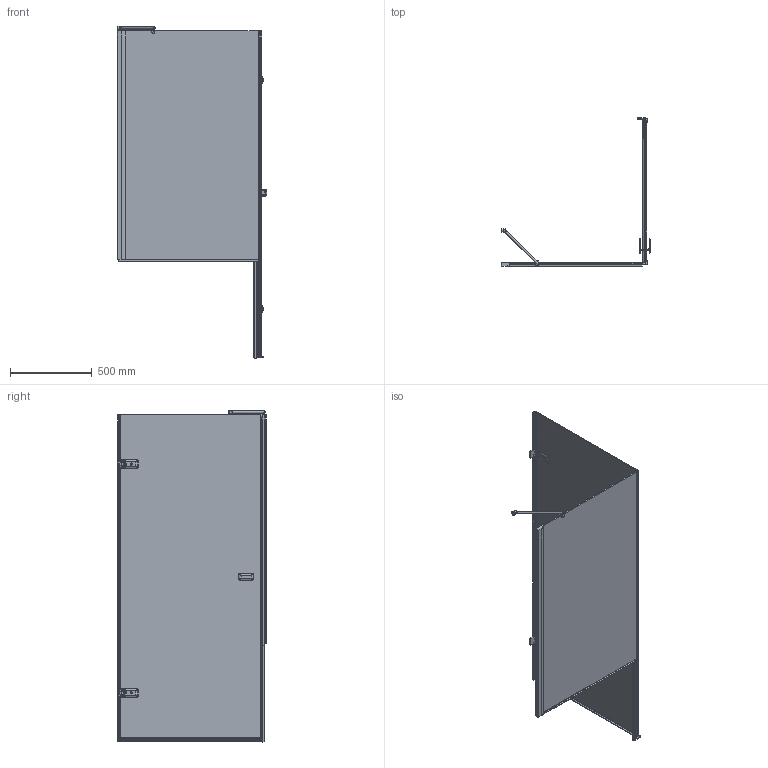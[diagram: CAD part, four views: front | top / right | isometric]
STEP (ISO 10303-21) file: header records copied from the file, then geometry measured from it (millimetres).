
FILE_DESCRIPTION(/* description */ (''),/* implementation_level */ '2;1');
FILE_NAME(/* name */ 'D:\2\TREND SQUARE GK-862PVONE\TREND SQUARE GK-862PVONE правая модель\TREND SQUARE GK-862PVONE ПРАВАЯ-3D.stp',/* time_stamp */ '2020-03-18T18:20:56+03:00',/* author */ ('User'),/* organization */ (''),/* preprocessor_version */ 'ST-DEVELOPER v15.2',/* originating_system */ 'Autodesk Inventor 2014',/* authorisation */ '');
FILE_SCHEMA (('AUTOMOTIVE_DESIGN { 1 0 10303 214 3 1 1 }'));
Length unit declared in the file: millimetre
Products named in the file (1): TREND SQUARE GK-862PVONE ПРАВАЯ-
3D
Bounding box: 912.64 x 908.8 x 2030.5 mm (x, y, z)
Volume: 22588383 mm3; surface area: 6556611.4 mm2
Topology: 4 solids, 12 shells, 987 faces, 2662 edges, 1670 vertices
Faces by surface type: plane 582, cylinder 300, bspline 54, torus 25, cone 20, sphere 6
Full cylindrical faces by diameter (mm): 4 x2, 4.134 x2, 5 x6, 5.2 x2, 6 x2, 7.2 x4, 8 x2, 11 x2, 12 x3, 13 x2, 15 x1, 16 x2, 20 x2, 26 x1
Entity records: 33378 total; most frequent: CARTESIAN_POINT 8025, ORIENTED_EDGE 5104, DIRECTION 4935, EDGE_CURVE 2546, LINE 1737, VECTOR 1737, VERTEX_POINT 1637, AXIS2_PLACEMENT_3D 1599
